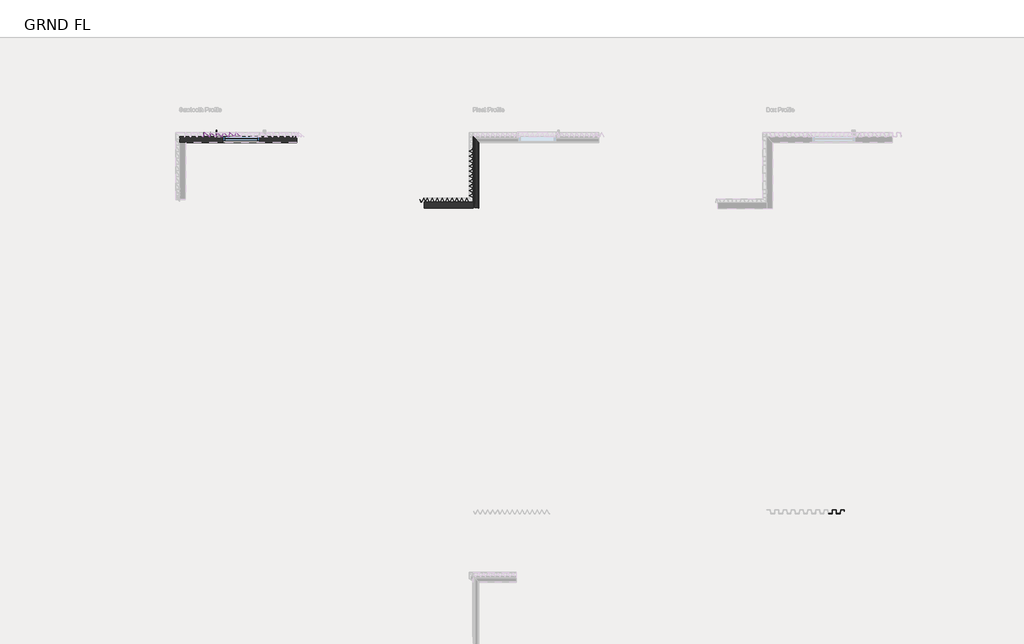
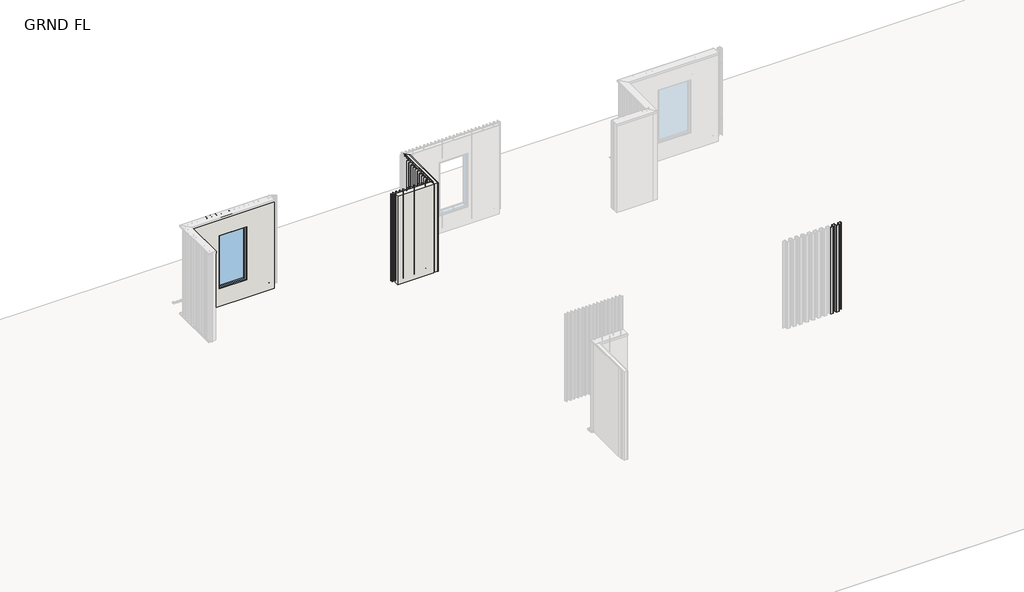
# One storey, part 2 of 13: 36 members, 3 walls, 1 plate, 1 window.
"""IFC4 building model written with IfcOpenShell, lengths in millimetres."""

from ifc_helpers import new_model, si_unit, frame, origin, place, context, project, spatial, polyline, circle_curve, ellipse_curve, outline, extrude, faceted_brep, transform, mapped, element, save
from ifc_brep_helpers import plane_surface, cylinder_surface, revolved_surface, advanced_brep
from components import rectangular_mullion_400fe68b, rectangular_mullion_c7de9142, rectangular_mullion_e289bfa8, rectangular_mullion_6f976a3b, rectangular_mullion_30baffb3, rectangular_mullion_a97d78b0, rectangular_mullion_585a1eef, rectangular_mullion_b048368e, rectangular_mullion_84c57f47, rectangular_mullion_f458c6f7, rectangular_mullion_6e79b691, empty_system_panel_empty_ec333ed9, window_e0563cc2

model = new_model("IFC4")

# Units and contexts
model_context = context("Model", 3, world=origin())
ifc_project = project(units=[si_unit("LENGTHUNIT", "METRE", prefix="MILLI")], contexts=[model_context])

# Site, building, storey
site = spatial("IfcSite", under=ifc_project)
building = spatial("IfcBuilding", under=site)
storey = spatial("IfcBuildingStorey", under=building, Name="GRND FL", Elevation=35277.5920148)

# Members
placement = place(None, origin())
rectangular_mullion_shape = rectangular_mullion_400fe68b(model_context)
element("IfcMember", 1, ObjectType="Rectangular Mullion : CD_NINELINE_Pleat Start Intermediate", at=placement, inside=storey, context=model_context, shape_type="MappedRepresentation", body=[
    mapped(rectangular_mullion_shape, transform((54493.6836337, -4027.6348276, 35330.5920148), x_axis=(0.0, -1.0, 0.0), y_axis=(-1.0, 0.0, 0.0), z_axis=(0.0, 0.0, -1.0))),
])
element("IfcMember", 2, ObjectType="Rectangular Mullion : CD_NINELINE_Pleat Start Intermediate", at=placement, inside=storey, context=model_context, shape_type="MappedRepresentation", body=[
    mapped(rectangular_mullion_shape, transform((54493.6836337, -4145.6348276, 35330.5920148), x_axis=(0.0, -1.0, 0.0), y_axis=(-1.0, 0.0, 0.0), z_axis=(0.0, 0.0, -1.0))),
])
element("IfcMember", 3, ObjectType="Rectangular Mullion : CD_NINELINE_Pleat Start Intermediate", at=placement, inside=storey, context=model_context, shape_type="MappedRepresentation", body=[
    mapped(rectangular_mullion_shape, transform((54493.6836337, -4263.6348276, 35330.5920148), x_axis=(0.0, -1.0, 0.0), y_axis=(-1.0, 0.0, 0.0), z_axis=(0.0, 0.0, -1.0))),
])
element("IfcMember", 4, ObjectType="Rectangular Mullion : CD_NINELINE_Pleat Start Intermediate", at=placement, inside=storey, context=model_context, shape_type="MappedRepresentation", body=[
    mapped(rectangular_mullion_shape, transform((54493.6836337, -4381.6348276, 35330.5920148), x_axis=(0.0, -1.0, 0.0), y_axis=(-1.0, 0.0, 0.0), z_axis=(0.0, 0.0, -1.0))),
])
element("IfcMember", 5, ObjectType="Rectangular Mullion : CD_NINELINE_Pleat Start Intermediate", at=placement, inside=storey, context=model_context, shape_type="MappedRepresentation", body=[
    mapped(rectangular_mullion_shape, transform((54493.6836337, -4499.6348276, 35330.5920148), x_axis=(0.0, -1.0, 0.0), y_axis=(-1.0, 0.0, 0.0), z_axis=(0.0, 0.0, -1.0))),
])
element("IfcMember", 6, ObjectType="Rectangular Mullion : CD_NINELINE_Pleat Start Intermediate", at=placement, inside=storey, context=model_context, shape_type="MappedRepresentation", body=[
    mapped(rectangular_mullion_shape, transform((54493.6836337, -4617.6348276, 35330.5920148), x_axis=(0.0, -1.0, 0.0), y_axis=(-1.0, 0.0, 0.0), z_axis=(0.0, 0.0, -1.0))),
])
element("IfcMember", 7, ObjectType="Rectangular Mullion : CD_NINELINE_Pleat Start Intermediate", at=placement, inside=storey, context=model_context, shape_type="MappedRepresentation", body=[
    mapped(rectangular_mullion_shape, transform((54493.6836337, -4735.6348276, 35330.5920148), x_axis=(0.0, -1.0, 0.0), y_axis=(-1.0, 0.0, 0.0), z_axis=(0.0, 0.0, -1.0))),
])
element("IfcMember", 8, ObjectType="Rectangular Mullion : CD_NINELINE_Pleat Start Intermediate", at=placement, inside=storey, context=model_context, shape_type="MappedRepresentation", body=[
    mapped(rectangular_mullion_shape, transform((54493.6836337, -4853.6348276, 35330.5920148), x_axis=(0.0, -1.0, 0.0), y_axis=(-1.0, 0.0, 0.0), z_axis=(0.0, 0.0, -1.0))),
])
element("IfcMember", 9, ObjectType="Rectangular Mullion : CD_NINELINE_Pleat Start Intermediate", at=placement, inside=storey, context=model_context, shape_type="MappedRepresentation", body=[
    mapped(rectangular_mullion_shape, transform((54493.6836337, -4971.6348276, 35330.5920148), x_axis=(0.0, -1.0, 0.0), y_axis=(-1.0, 0.0, 0.0), z_axis=(0.0, 0.0, -1.0))),
])
element("IfcMember", 10, ObjectType="Rectangular Mullion : CD_NINELINE_Pleat Start Intermediate", at=placement, inside=storey, context=model_context, shape_type="MappedRepresentation", body=[
    mapped(rectangular_mullion_shape, transform((54493.6836337, -5089.6348276, 35330.5920148), x_axis=(0.0, -1.0, 0.0), y_axis=(-1.0, 0.0, 0.0), z_axis=(0.0, 0.0, -1.0))),
])
rectangular_mullion_2_shape = rectangular_mullion_c7de9142(model_context)
element("IfcMember", 11, ObjectType="Rectangular Mullion : CD_NINELINE_Sawtooth Start Intermediate", at=placement, inside=storey, context=model_context, shape_type="MappedRepresentation", body=[
    mapped(rectangular_mullion_2_shape, transform((48133.9599021, -3745.6146039, 35877.5920148), x_axis=(-1.0, 0.0, 0.0), y_axis=(0.0, 1.0, 0.0), z_axis=(0.0, 0.0, -1.0))),
])
rectangular_mullion_3_shape = rectangular_mullion_e289bfa8(model_context)
element("IfcMember", 12, ObjectType="Rectangular Mullion : CD_NINELINE_Sawtooth Intermediate w Pan", at=placement, inside=storey, context=model_context, shape_type="MappedRepresentation", body=[
    mapped(rectangular_mullion_3_shape, transform((48283.9599021, -3745.6146039, 35877.5920148), x_axis=(-1.0, 0.0, 0.0), y_axis=(0.0, 1.0, 0.0), z_axis=(0.0, 0.0, -1.0))),
])
rectangular_mullion_4_shape = rectangular_mullion_6f976a3b(model_context)
element("IfcMember", 13, ObjectType="Rectangular Mullion : CD_NINELINE_Sawtooth Start Intermediate", at=placement, inside=storey, context=model_context, shape_type="MappedRepresentation", body=[
    mapped(rectangular_mullion_4_shape, transform((48883.9599021, -3745.6146039, 35330.5920148), x_axis=(-1.0, 0.0, 0.0), y_axis=(0.0, 1.0, 0.0), z_axis=(0.0, 0.0, -1.0))),
])
element("IfcMember", 14, ObjectType="Rectangular Mullion : CD_NINELINE_Sawtooth Start Intermediate", at=placement, inside=storey, context=model_context, shape_type="MappedRepresentation", body=[
    mapped(rectangular_mullion_4_shape, transform((48733.9599021, -3745.6146039, 35330.5920148), x_axis=(-1.0, 0.0, 0.0), y_axis=(0.0, 1.0, 0.0), z_axis=(0.0, 0.0, -1.0))),
])
element("IfcMember", 15, ObjectType="Rectangular Mullion : CD_NINELINE_Sawtooth Start Intermediate", at=placement, inside=storey, context=model_context, shape_type="MappedRepresentation", body=[
    mapped(rectangular_mullion_4_shape, transform((48583.9599021, -3745.6146039, 35330.5920148), x_axis=(-1.0, 0.0, 0.0), y_axis=(0.0, 1.0, 0.0), z_axis=(0.0, 0.0, -1.0))),
])
element("IfcMember", 16, ObjectType="Rectangular Mullion : CD_NINELINE_Sawtooth Start Intermediate", at=placement, inside=storey, context=model_context, shape_type="MappedRepresentation", body=[
    mapped(rectangular_mullion_4_shape, transform((48283.9599021, -3745.6146039, 35330.5920148), x_axis=(-1.0, 0.0, 0.0), y_axis=(0.0, 1.0, 0.0), z_axis=(0.0, 0.0, -1.0))),
])
rectangular_mullion_5_shape = rectangular_mullion_30baffb3(model_context)
element("IfcMember", 17, ObjectType="Rectangular Mullion : CD_NINELINE_Sawtooth Intermediate w Pan", at=placement, inside=storey, context=model_context, shape_type="MappedRepresentation", body=[
    mapped(rectangular_mullion_5_shape, transform((48433.9599021, -3745.6146039, 35330.5920148), x_axis=(-1.0, 0.0, 0.0), y_axis=(0.0, 1.0, 0.0), z_axis=(0.0, 0.0, -1.0))),
])
element("IfcMember", 18, ObjectType="Rectangular Mullion : CD_NINELINE_Sawtooth Start Intermediate", at=placement, inside=storey, context=model_context, shape_type="MappedRepresentation", body=[
    mapped(rectangular_mullion_4_shape, transform((48133.9599021, -3745.6146039, 35330.5920148), x_axis=(-1.0, 0.0, 0.0), y_axis=(0.0, 1.0, 0.0), z_axis=(0.0, 0.0, -1.0))),
])
rectangular_mullion_6_shape = rectangular_mullion_a97d78b0(model_context)
element("IfcMember", 19, ObjectType="Rectangular Mullion : CD_NINELINE_Sawtooth Start Intermediate", at=placement, inside=storey, context=model_context, shape_type="MappedRepresentation", body=[
    mapped(rectangular_mullion_6_shape, transform((48133.9599021, -3745.6146039, 37729.5920148), x_axis=(-1.0, 0.0, 0.0), y_axis=(0.0, 1.0, 0.0), z_axis=(0.0, 0.0, -1.0))),
])
element("IfcMember", 20, ObjectType="Rectangular Mullion : CD_NINELINE_Sawtooth Start Intermediate", at=placement, inside=storey, context=model_context, shape_type="MappedRepresentation", body=[
    mapped(rectangular_mullion_6_shape, transform((48283.9599021, -3745.6146039, 37729.5920148), x_axis=(-1.0, 0.0, 0.0), y_axis=(0.0, 1.0, 0.0), z_axis=(0.0, 0.0, -1.0))),
])
element("IfcMember", 21, ObjectType="Rectangular Mullion : CD_NINELINE_Sawtooth Start Intermediate", at=placement, inside=storey, context=model_context, shape_type="MappedRepresentation", body=[
    mapped(rectangular_mullion_6_shape, transform((48883.9599021, -3745.6146039, 37729.5920148), x_axis=(-1.0, 0.0, 0.0), y_axis=(0.0, 1.0, 0.0), z_axis=(0.0, 0.0, -1.0))),
])
element("IfcMember", 22, ObjectType="Rectangular Mullion : CD_NINELINE_Sawtooth Start Intermediate", at=placement, inside=storey, context=model_context, shape_type="MappedRepresentation", body=[
    mapped(rectangular_mullion_6_shape, transform((48733.9599021, -3745.6146039, 37729.5920148), x_axis=(-1.0, 0.0, 0.0), y_axis=(0.0, 1.0, 0.0), z_axis=(0.0, 0.0, -1.0))),
])
element("IfcMember", 23, ObjectType="Rectangular Mullion : CD_NINELINE_Sawtooth Start Intermediate", at=placement, inside=storey, context=model_context, shape_type="MappedRepresentation", body=[
    mapped(rectangular_mullion_6_shape, transform((48583.9599021, -3745.6146039, 37729.5920148), x_axis=(-1.0, 0.0, 0.0), y_axis=(0.0, 1.0, 0.0), z_axis=(0.0, 0.0, -1.0))),
])
element("IfcMember", 24, ObjectType="Rectangular Mullion : CD_NINELINE_Sawtooth Start Intermediate", at=placement, inside=storey, context=model_context, shape_type="MappedRepresentation", body=[
    mapped(rectangular_mullion_6_shape, transform((48433.9599021, -3745.6146039, 37729.5920148), x_axis=(-1.0, 0.0, 0.0), y_axis=(0.0, 1.0, 0.0), z_axis=(0.0, 0.0, -1.0))),
])
rectangular_mullion_7_shape = rectangular_mullion_585a1eef(model_context)
element("IfcMember", 25, ObjectType="Rectangular Mullion : CD_NINELINE_Pleat Start Intermediate", at=placement, inside=storey, context=model_context, shape_type="MappedRepresentation", body=[
    mapped(rectangular_mullion_7_shape, transform((53569.7112724, -5304.8431195, 35330.5920148), x_axis=(1.0, 0.0, 0.0), y_axis=(0.0, -1.0, 0.0), z_axis=(0.0, 0.0, -1.0))),
])
element("IfcMember", 26, ObjectType="Rectangular Mullion : CD_NINELINE_Pleat Start Intermediate", at=placement, inside=storey, context=model_context, shape_type="MappedRepresentation", body=[
    mapped(rectangular_mullion_7_shape, transform((53687.7112724, -5304.8431195, 35330.5920148), x_axis=(1.0, 0.0, 0.0), y_axis=(0.0, -1.0, 0.0), z_axis=(0.0, 0.0, -1.0))),
])
element("IfcMember", 27, ObjectType="Rectangular Mullion : CD_NINELINE_Pleat Start Intermediate", at=placement, inside=storey, context=model_context, shape_type="MappedRepresentation", body=[
    mapped(rectangular_mullion_7_shape, transform((53805.7112724, -5304.8431195, 35330.5920148), x_axis=(1.0, 0.0, 0.0), y_axis=(0.0, -1.0, 0.0), z_axis=(0.0, 0.0, -1.0))),
])
element("IfcMember", 28, ObjectType="Rectangular Mullion : CD_NINELINE_Pleat Start Intermediate", at=placement, inside=storey, context=model_context, shape_type="MappedRepresentation", body=[
    mapped(rectangular_mullion_7_shape, transform((53923.7112724, -5304.8431195, 35330.5920148), x_axis=(1.0, 0.0, 0.0), y_axis=(0.0, -1.0, 0.0), z_axis=(0.0, 0.0, -1.0))),
])
element("IfcMember", 29, ObjectType="Rectangular Mullion : CD_NINELINE_Pleat Start Intermediate", at=placement, inside=storey, context=model_context, shape_type="MappedRepresentation", body=[
    mapped(rectangular_mullion_7_shape, transform((54041.7112724, -5304.8431195, 35330.5920148), x_axis=(1.0, 0.0, 0.0), y_axis=(0.0, -1.0, 0.0), z_axis=(0.0, 0.0, -1.0))),
])
element("IfcMember", 30, ObjectType="Rectangular Mullion : CD_NINELINE_Pleat Start Intermediate", at=placement, inside=storey, context=model_context, shape_type="MappedRepresentation", body=[
    mapped(rectangular_mullion_7_shape, transform((54159.7112724, -5304.8431195, 35330.5920148), x_axis=(1.0, 0.0, 0.0), y_axis=(0.0, -1.0, 0.0), z_axis=(0.0, 0.0, -1.0))),
])
element("IfcMember", 31, ObjectType="Rectangular Mullion : CD_NINELINE_Pleat Start Intermediate", at=placement, inside=storey, context=model_context, shape_type="MappedRepresentation", body=[
    mapped(rectangular_mullion_7_shape, transform((53451.7112724, -5304.8431195, 35330.5920148), x_axis=(1.0, 0.0, 0.0), y_axis=(0.0, -1.0, 0.0), z_axis=(0.0, 0.0, -1.0))),
])
element("IfcMember", 32, ObjectType="Rectangular Mullion : CD_NINELINE_Pleat Start Intermediate", at=placement, inside=storey, context=model_context, shape_type="MappedRepresentation", body=[
    mapped(rectangular_mullion_7_shape, transform((53333.7112724, -5304.8431195, 35330.5920148), x_axis=(1.0, 0.0, 0.0), y_axis=(0.0, -1.0, 0.0), z_axis=(0.0, 0.0, -1.0))),
])
rectangular_mullion_8_shape = rectangular_mullion_b048368e(model_context)
element("IfcMember", 33, ObjectType="Rectangular Mullion : CD_NINELINE_Pleat Start", at=placement, inside=storey, context=model_context, shape_type="MappedRepresentation", body=[
    mapped(rectangular_mullion_8_shape, transform((53223.227579, -5304.8431195, 38277.5920148), x_axis=(-1.0, 0.0, 0.0), y_axis=(0.0, -1.0, 0.0), z_axis=(0.0, 0.0, 1.0))),
])
rectangular_mullion_9_shape = rectangular_mullion_84c57f47(model_context)
element("IfcMember", 34, ObjectType="Rectangular Mullion : CD_NINELINE_Pleat End", at=placement, inside=storey, context=model_context, shape_type="MappedRepresentation", body=[
    mapped(rectangular_mullion_9_shape, transform((54277.7112724, -5304.8431195, 35330.5920148), x_axis=(1.0, 0.0, 0.0), y_axis=(0.0, -1.0, 0.0), z_axis=(0.0, 0.0, -1.0))),
])
rectangular_mullion_10_shape = rectangular_mullion_f458c6f7(model_context)
element("IfcMember", 35, ObjectType="Rectangular Mullion : CD_NINELINE_Box Intermediate", at=placement, inside=storey, context=model_context, shape_type="MappedRepresentation", body=[
    mapped(rectangular_mullion_10_shape, transform((62968.105605, -12745.6146039, 35330.5920148), x_axis=(1.0, 0.0, 0.0), y_axis=(0.0, -1.0, 0.0), z_axis=(0.0, 0.0, -1.0))),
])
rectangular_mullion_11_shape = rectangular_mullion_6e79b691(model_context)
element("IfcMember", 36, ObjectType="Rectangular Mullion : CD_NINELINE_Box End", at=placement, inside=storey, context=model_context, shape_type="MappedRepresentation", body=[
    mapped(rectangular_mullion_11_shape, transform((63353.1836337, -12745.6146039, 35330.5920148), x_axis=(1.0, 0.0, 0.0), y_axis=(0.0, -1.0, 0.0), z_axis=(0.0, 0.0, -1.0))),
])

# Plate
empty_system_panel_empty_shape = empty_system_panel_empty_ec333ed9(model_context)
element("IfcPlate", 37, ObjectType="Empty System Panel : Empty", at=placement, inside=storey, context=model_context, shape_type="MappedRepresentation", body=[
    mapped(empty_system_panel_empty_shape, transform((48375.6382426, -3745.6146039, 35877.5920148), x_axis=(-1.0, 0.0, 0.0), y_axis=(0.0, -1.0, 0.0), z_axis=(0.0, 0.0, 1.0))),
])

# Walls
element("IfcWall", 38, ObjectType="EXT METAL SF- Top Hat 35, Steel Frame 90, Plasterboard 13", at=placement, inside=storey, context=model_context, shape_type="AdvancedBrep", body=[
    advanced_brep(
    [(47493.6836337, -3887.6146039, 35277.5920148), (47635.6836337, -3887.6146039, 35277.5920148), (50283.683634, -3887.6146039, 35277.5920148), (50283.683634, -3887.6146039, 38277.5920148), (47635.6836337, -3887.6146039, 38277.5082912), (47630.8871105, -3887.6146039, 38277.5920148), (47493.6836337, -3887.6146039, 38277.5920148), (47493.6836337, -3887.6146039, 35407.5920148), (47494.6836337, -3887.6146039, 35407.5920148), (47494.6836337, -3887.6146039, 35328.1986423), (47493.6836337, -3887.6146039, 35328.1811873), (49404.3086337, -3887.6146039, 37677.5920148), (49404.3086337, -3887.6146039, 35877.5920148), (48519.3086337, -3887.6146039, 35877.5920148), (48519.3086337, -3887.6146039, 37677.5920148), (50283.683634, -3745.6146039, 35277.5920148), (47493.6836337, -3745.6146039, 35277.5920148), (47493.6836337, -3745.6146039, 35328.1811873), (50283.683634, -3745.6146039, 35328.1811873), (47493.6836337, -3745.6146039, 38277.5920148), (50283.683634, -3745.6146039, 38277.5920148), (50283.683634, -3745.6146039, 35407.5920148), (47493.6836337, -3745.6146039, 35407.5920148), (49401.8711337, -3745.6146039, 35877.5920148), (49404.3086337, -3745.6146039, 35877.5920148), (49404.3086337, -3745.6146039, 35879.395077), (49557.8491977, -3745.6146039, 35879.395077), (49701.002942, -3745.6146039, 35878.5920529), (49704.0872375, -3745.6146039, 35876.592129), (49704.0872375, -3745.6146039, 35845.9418703), (49700.9641937, -3745.6146039, 35862.2912699), (49699.420066, -3745.6146039, 35862.1694005), (49705.6429613, -3745.6146039, 35829.5920148), (49705.6429613, -3745.6146039, 35876.592129), (49701.016518, -3745.6146039, 35879.5920148), (49557.8491977, -3745.6146039, 35880.3951151), (49404.3086337, -3745.6146039, 35880.3951151), (49404.3086337, -3745.6146039, 37677.5920148), (49570.8795019, -3745.6146039, 37677.5920148), (49575.5466734, -3745.6146039, 37680.5920148), (49575.5466734, -3745.6146039, 37722.5924717), (49570.9609553, -3745.6146039, 37725.5920148), (49429.3086337, -3745.6146039, 37727.1813396), (48445.3086337, -3745.6146039, 37727.1813396), (48354.2562764, -3745.6146039, 37725.5920148), (48351.3086337, -3745.6146039, 37722.5924717), (48351.3086337, -3745.6146039, 37680.5920148), (48354.3086337, -3745.6146039, 37677.5920148), (48519.3086337, -3745.6146039, 37677.5920148), (48519.3086337, -3745.6146039, 35880.3951151), (48463.8491977, -3745.6146039, 35880.3951151), (48371.8230181, -3745.6146039, 35879.5920148), (48368.8491977, -3745.6146039, 35876.592129), (48368.8491977, -3745.6146039, 35829.5920148), (48372.8491977, -3745.6146039, 35862.1694005), (48371.8566516, -3745.6146039, 35862.2912699), (48369.8491977, -3745.6146039, 35845.9418703), (48369.8491977, -3745.6146039, 35876.592129), (48371.8317447, -3745.6146039, 35878.5920529), (48463.8491977, -3745.6146039, 35879.395077), (48519.3086337, -3745.6146039, 35879.395077), (48519.3086337, -3745.6146039, 35877.5920148), (48522.2513341, -3745.6146039, 35877.5920148), (48523.2513341, -3745.6146039, 35877.5920148), (49400.8711337, -3745.6146039, 35877.5920148), (48445.3086337, -3745.6146039, 37726.1811873), (49429.3086337, -3745.6146039, 37726.1811873), (49570.9338041, -3745.6146039, 37724.5921671), (49573.9909496, -3745.6146039, 37722.5924717), (49573.9909496, -3745.6146039, 37680.5920148), (49570.8795019, -3745.6146039, 37678.5920148), (48354.3086337, -3745.6146039, 37678.5920148), (48352.3086337, -3745.6146039, 37680.5920148), (48352.3086337, -3745.6146039, 37722.5924717), (48354.2737288, -3745.6146039, 37724.5921671), (50283.683634, -3746.6146039, 35328.1986423), (50283.683634, -3746.6146039, 35407.5920148), (50283.683634, -3882.8180808, 38277.5920148), (49404.3086337, -3764.6146039, 37677.5920148), (49404.3086337, -3759.6146039, 35880.5172912), (49404.3086337, -3759.6146039, 35886.5920148), (49404.3086337, -3760.6146039, 35886.5920148), (49404.3086337, -3760.6146039, 35879.52598), (48519.3086337, -3764.6146039, 37677.5920148), (48519.3086337, -3760.6146039, 35879.52598), (48519.3086337, -3760.6146039, 35886.5920148), (48519.3086337, -3759.6146039, 35886.5920148), (48519.3086337, -3759.6146039, 35880.5172912), (47494.6836337, -3746.6146039, 35328.1986423), (47494.6836337, -3746.6146039, 35407.5920148), (48464.3086337, -3764.6146039, 37677.5920148), (48464.3086337, -3764.6146039, 37687.5920148), (49422.3931992, -3764.6146039, 37687.5920148), (49422.3931992, -3764.6146039, 37677.5920148), (48463.3086337, -3763.6146039, 37687.5920148), (48463.3086337, -3763.6146039, 37678.5920148), (49422.7571694, -3763.6146039, 37678.5920148), (49422.7571694, -3763.6146039, 37687.5920148), (48450.3086337, -3750.6146039, 37726.2684626), (49427.4887825, -3750.6146039, 37726.2684626), (48450.3086337, -3750.6146039, 37825.5920148), (49427.4887825, -3750.6146039, 37825.5920148), (48449.3086337, -3749.6146039, 37825.5920148), (48449.3086337, -3749.6146039, 37727.2511599), (49427.8527527, -3749.6146039, 37727.2511599), (49427.8527527, -3749.6146039, 37825.5920148), (49593.76723, -3764.8196882, 37677.5920148), (49422.6376091, -3764.8196882, 37677.5920148), (49422.6376091, -3764.8196882, 37687.5920148), (49424.1933329, -3764.8196882, 37687.5920148), (49424.1933329, -3764.8196882, 37678.5920148), (49593.76723, -3764.8196882, 37678.5920148), (49596.8786777, -3764.8196882, 37680.5920148), (49596.8786777, -3764.8196882, 37722.5924717), (49593.8215323, -3764.8196882, 37724.5921671), (49444.4177427, -3764.8196882, 37726.2684626), (49444.4177427, -3764.8196882, 37825.5920148), (49445.9734665, -3764.8196882, 37825.5920148), (49445.9734665, -3764.8196882, 37727.2511599), (49593.8486834, -3764.8196882, 37725.5920148), (49598.4344015, -3764.8196882, 37722.5924717), (49598.4344015, -3764.8196882, 37680.5920148), (48351.3086337, -3764.9336584, 37680.5920148), (48351.3086337, -3764.9336584, 37722.5924717), (48354.2562764, -3764.9336584, 37725.5920148), (48449.3086337, -3764.9336584, 37727.2511599), (48449.3086337, -3764.9336584, 37825.5920148), (48450.3086337, -3764.9336584, 37825.5920148), (48450.3086337, -3764.9336584, 37726.2684626), (48354.2737288, -3764.9336584, 37724.5921671), (48352.3086337, -3764.9336584, 37722.5924717), (48352.3086337, -3764.9336584, 37680.5920148), (48354.3086337, -3764.9336584, 37678.5920148), (48463.3086337, -3764.9336584, 37678.5920148), (48463.3086337, -3764.9336584, 37687.5920148), (48464.3086337, -3764.9336584, 37687.5920148), (48464.3086337, -3764.9336584, 37677.5920148), (48354.3086337, -3764.9336584, 37677.5920148), (48478.8491977, -3760.6146039, 35879.52598), (49552.3896442, -3760.6146039, 35879.52598), (48478.8491977, -3760.6146039, 35886.5920148), (49552.3896442, -3760.6146039, 35886.5920148), (48477.8491977, -3759.6146039, 35886.5920148), (48477.8491977, -3759.6146039, 35880.5172912), (49552.7536145, -3759.6146039, 35880.5172912), (49552.7536145, -3759.6146039, 35886.5920148), (48368.8491977, -3760.9336584, 35829.5920148), (48368.8491977, -3760.9336584, 35876.592129), (48371.8230181, -3760.9336584, 35879.5920148), (48477.8491977, -3760.9336584, 35880.5172912), (48477.8491977, -3760.9336584, 35886.5920148), (48478.8491977, -3760.9336584, 35886.5920148), (48478.8491977, -3760.9336584, 35879.52598), (48371.8317447, -3760.9336584, 35878.5920529), (48369.8491977, -3760.9336584, 35876.592129), (48369.8491977, -3760.9336584, 35845.9418703), (48371.8566516, -3760.9336584, 35862.2912699), (48372.8491977, -3760.9336584, 35862.1694005), (49552.6340541, -3760.8196882, 35886.5920148), (49554.1897779, -3760.8196882, 35886.5920148), (49554.1897779, -3760.8196882, 35880.5172912), (49719.1372318, -3760.8196882, 35879.5920148), (49723.7636751, -3760.8196882, 35876.592129), (49723.7636751, -3760.8196882, 35829.5920148), (49717.5407798, -3760.8196882, 35862.1694005), (49719.0849075, -3760.8196882, 35862.2912699), (49722.2079512, -3760.8196882, 35845.9418703), (49722.2079512, -3760.8196882, 35876.592129), (49719.1236557, -3760.8196882, 35878.5920529), (49552.6340541, -3760.8196882, 35879.52598)],
    [
        (0, 1),
        (1, 2),
        (2, 3),
        (3, 4),
        (4, 5),
        (5, 6),
        (6, 7),
        (7, 8),
        (8, 9),
        (9, 10),
        (10, 0),
        (11, 12),
        (12, 13),
        (13, 14),
        (14, 11),
        (15, 16),
        (16, 17),
        (17, 18),
        (18, 15),
        (19, 20),
        (20, 21),
        (21, 22),
        (22, 19),
        (23, 24),
        (24, 25),
        (25, 26),
        (26, 27),
        (27, 28, ellipse_curve(frame((49700.9757898, -3745.6146039, 35876.592129), z_axis=(0.0, 1.0, 0.0), x_axis=(1.0, 0.0, 0.0)), 3.1114477, 2.0)),
        (28, 29),
        (29, 30),
        (30, 31),
        (31, 32),
        (32, 33),
        (33, 34, ellipse_curve(frame((49700.9757898, -3745.6146039, 35876.592129), z_axis=(0.0, -1.0, 0.0), x_axis=(-1.0, 0.0, 0.0)), 4.6671715, 3.0)),
        (34, 35),
        (35, 36),
        (36, 37),
        (37, 38),
        (38, 39, ellipse_curve(frame((49570.8795019, -3745.6146039, 37680.5920148), z_axis=(0.0, -1.0, 0.0), x_axis=(-0.9999999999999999, 0.0, 0.0)), 4.6671715, 3.0)),
        (39, 40),
        (40, 41, ellipse_curve(frame((49570.8795019, -3745.6146039, 37722.5924717), z_axis=(0.0, -1.0, 0.0), x_axis=(-0.9999999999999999, 0.0, 0.0)), 4.6671715, 3.0)),
        (41, 42),
        (42, 43),
        (43, 44),
        (44, 45, circle_curve(frame((48354.3086337, -3745.6146039, 37722.5924717), z_axis=(0.0, -1.0, 0.0), x_axis=(-1.0, 0.0, 0.0)), 3.0)),
        (45, 46),
        (46, 47, circle_curve(frame((48354.3086337, -3745.6146039, 37680.5920148), z_axis=(0.0, -1.0, 0.0), x_axis=(-1.0, 0.0, 0.0)), 3.0)),
        (47, 48),
        (48, 49),
        (49, 50),
        (50, 51),
        (51, 52, circle_curve(frame((48371.8491977, -3745.6146039, 35876.592129), z_axis=(0.0, -1.0, 0.0), x_axis=(-1.0, 0.0, 0.0)), 3.0)),
        (52, 53),
        (53, 54),
        (54, 55),
        (55, 56),
        (56, 57),
        (57, 58, circle_curve(frame((48371.8491977, -3745.6146039, 35876.592129), z_axis=(0.0, 1.0, 0.0), x_axis=(-1.0, 0.0, 0.0)), 2.0)),
        (58, 59),
        (59, 60),
        (60, 61),
        (61, 62),
        (62, 63),
        (63, 64),
        (64, 23),
        (65, 66),
        (66, 67),
        (67, 68, ellipse_curve(frame((49570.8795019, -3745.6146039, 37722.5924717), z_axis=(0.0, 1.0, 0.0), x_axis=(0.9999999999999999, 0.0, 0.0)), 3.1114477, 2.0)),
        (68, 69),
        (69, 70, ellipse_curve(frame((49570.8795019, -3745.6146039, 37680.5920148), z_axis=(0.0, 1.0, 0.0), x_axis=(0.9999999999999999, 0.0, 0.0)), 3.1114477, 2.0)),
        (70, 71),
        (71, 72, circle_curve(frame((48354.3086337, -3745.6146039, 37680.5920148), z_axis=(0.0, 1.0, 0.0), x_axis=(-1.0, 0.0, 0.0)), 2.0)),
        (72, 73),
        (73, 74, circle_curve(frame((48354.3086337, -3745.6146039, 37722.5924717), z_axis=(0.0, 1.0, 0.0), x_axis=(-1.0, 0.0, 0.0)), 2.0)),
        (74, 65),
        (0, 16),
        (15, 2),
        (18, 75),
        (75, 76),
        (76, 21),
        (20, 77),
        (77, 3),
        (19, 6),
        (24, 12),
        (11, 78),
        (78, 37),
        (36, 79),
        (79, 80),
        (80, 81),
        (81, 82),
        (82, 25),
        (14, 83),
        (83, 78),
        (13, 61),
        (60, 84),
        (84, 85),
        (85, 86),
        (86, 87),
        (87, 49),
        (48, 83),
        (22, 7),
        (10, 17),
        (9, 88),
        (88, 17),
        (89, 88),
        (8, 89),
        (76, 89),
        (88, 75),
        (90, 91),
        (91, 92),
        (92, 93),
        (93, 78),
        (83, 90),
        (94, 95),
        (95, 96),
        (96, 97),
        (97, 94),
        (98, 99),
        (99, 66),
        (65, 98),
        (98, 100),
        (100, 101),
        (101, 99),
        (102, 103),
        (103, 104),
        (104, 105),
        (105, 102),
        (103, 43),
        (42, 104),
        (106, 107),
        (107, 108),
        (108, 109),
        (109, 110),
        (110, 111),
        (111, 112, ellipse_curve(frame((49593.76723, -3764.8196882, 37680.5920148), z_axis=(0.0, -1.0, 0.0), x_axis=(0.9999999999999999, 0.0, 0.0)), 3.1114477, 2.0)),
        (112, 113),
        (113, 114, ellipse_curve(frame((49593.76723, -3764.8196882, 37722.5924717), z_axis=(0.0, -1.0, 0.0), x_axis=(0.9999999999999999, 0.0, 0.0)), 3.1114477, 2.0)),
        (114, 115),
        (115, 116),
        (116, 117),
        (117, 118),
        (118, 119),
        (119, 120, ellipse_curve(frame((49593.76723, -3764.8196882, 37722.5924717), z_axis=(0.0, 1.0, 0.0), x_axis=(-0.9999999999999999, 0.0, 0.0)), 4.6671715, 3.0)),
        (120, 121),
        (121, 106, ellipse_curve(frame((49593.76723, -3764.8196882, 37680.5920148), z_axis=(0.0, 1.0, 0.0), x_axis=(-0.9999999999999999, 0.0, 0.0)), 4.6671715, 3.0)),
        (120, 40),
        (39, 121),
        (38, 106),
        (107, 93),
        (92, 108),
        (109, 97),
        (96, 110),
        (111, 70),
        (69, 112),
        (68, 113),
        (67, 114),
        (99, 115),
        (101, 116),
        (117, 105),
        (104, 118),
        (41, 119),
        (122, 123),
        (123, 124, circle_curve(frame((48354.3086337, -3764.9336584, 37722.5924717), z_axis=(0.0, 1.0, 0.0), x_axis=(-1.0, 0.0, 0.0)), 3.0)),
        (124, 125),
        (125, 126),
        (126, 127),
        (127, 128),
        (128, 129),
        (129, 130, circle_curve(frame((48354.3086337, -3764.9336584, 37722.5924717), z_axis=(0.0, -1.0, 0.0), x_axis=(-1.0, 0.0, 0.0)), 2.0)),
        (130, 131),
        (131, 132, circle_curve(frame((48354.3086337, -3764.9336584, 37680.5920148), z_axis=(0.0, -1.0, 0.0), x_axis=(-1.0, 0.0, 0.0)), 2.0)),
        (132, 133),
        (133, 134),
        (134, 135),
        (135, 136),
        (136, 137),
        (137, 122, circle_curve(frame((48354.3086337, -3764.9336584, 37680.5920148), z_axis=(0.0, 1.0, 0.0), x_axis=(-1.0, 0.0, 0.0)), 3.0)),
        (122, 46),
        (45, 123),
        (137, 47),
        (136, 90),
        (135, 91),
        (134, 94),
        (133, 95),
        (132, 71),
        (131, 72),
        (130, 73),
        (129, 74),
        (128, 98),
        (127, 100),
        (126, 102),
        (125, 103),
        (124, 44),
        (138, 84),
        (59, 138),
        (139, 26),
        (82, 139),
        (138, 140),
        (140, 85),
        (141, 139),
        (81, 141),
        (142, 143),
        (143, 87),
        (86, 142),
        (144, 145),
        (145, 80),
        (79, 144),
        (143, 50),
        (35, 144),
        (146, 147),
        (147, 148, circle_curve(frame((48371.8491977, -3760.9336584, 35876.592129), z_axis=(0.0, 1.0, 0.0), x_axis=(-1.0, 0.0, 0.0)), 3.0)),
        (148, 149),
        (149, 150),
        (150, 151),
        (151, 152),
        (152, 153),
        (153, 154, circle_curve(frame((48371.8491977, -3760.9336584, 35876.592129), z_axis=(0.0, -1.0, 0.0), x_axis=(-1.0, 0.0, 0.0)), 2.0)),
        (154, 155),
        (155, 156),
        (156, 157),
        (157, 146),
        (146, 53),
        (52, 147),
        (157, 54),
        (156, 55),
        (155, 56),
        (154, 57),
        (153, 58),
        (152, 138),
        (151, 140),
        (150, 142),
        (158, 141),
        (145, 159),
        (159, 158),
        (149, 143),
        (148, 51),
        (159, 160),
        (160, 161),
        (161, 162, ellipse_curve(frame((49719.0965036, -3760.8196882, 35876.592129), z_axis=(0.0, 1.0, 0.0), x_axis=(-1.0, 0.0, 0.0)), 4.6671715, 3.0)),
        (162, 163),
        (163, 164),
        (164, 165),
        (165, 166),
        (166, 167),
        (167, 168, ellipse_curve(frame((49719.0965036, -3760.8196882, 35876.592129), z_axis=(0.0, -1.0, 0.0), x_axis=(1.0, 0.0, 0.0)), 3.1114477, 2.0)),
        (168, 169),
        (169, 158),
        (162, 33),
        (32, 163),
        (31, 164),
        (30, 165),
        (29, 166),
        (28, 167),
        (27, 168),
        (139, 169),
        (144, 160),
        (34, 161),
    ],
    [
        plane_surface(frame((47493.6836337, -3887.6146039, 35277.5920148), z_axis=(0.0, -1.0, 0.0), x_axis=(1.0, 0.0, 0.0))),
        plane_surface(frame((47493.6836337, -3745.6146039, 35277.5920148), z_axis=(0.0, 1.0, 0.0), x_axis=(-1.0, 0.0, 0.0))),
        plane_surface(frame((47564.6836337, -3887.6146039, 35277.5920148), z_axis=(0.0, 0.0, -1.0), x_axis=(0.0, 1.0, 0.0))),
        plane_surface(frame((50283.683634, -3887.6146039, 35277.5920148), z_axis=(1.0, 0.0, 0.0), x_axis=(0.0, 1.0, 0.0))),
        plane_surface(frame((50283.683634, -3887.6146039, 38277.5920148), z_axis=(0.0, 0.0, 1.0), x_axis=(0.0, 1.0, 0.0))),
        plane_surface(frame((49404.3086337, -5269.6146039, 35877.5920148), z_axis=(-1.0, 0.0, 0.0), x_axis=(0.0, 1.0, 0.0))),
        plane_surface(frame((49404.3086337, -5269.6146039, 37677.5920148), z_axis=(0.0, 0.0, -1.0), x_axis=(0.0, 1.0, 0.0))),
        plane_surface(frame((48519.3086337, -5269.6146039, 37677.5920148), z_axis=(1.0, 0.0, 0.0), x_axis=(0.0, 1.0, 0.0))),
        plane_surface(frame((48519.3086337, -5269.6146039, 35877.5920148), z_axis=(0.0, 0.0, 1.0), x_axis=(0.0, 1.0, 0.0))),
        plane_surface(frame((47493.6836337, -3745.6146039, 35277.5920148), z_axis=(-1.0, 0.0, 0.0), x_axis=(0.0, -1.0, 0.0))),
        plane_surface(frame((47402.6487288, -5245.6146039, 35326.5921671), z_axis=(-0.017452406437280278, 0.0, 0.9998476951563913), x_axis=(0.0, 1.0, 0.0))),
        plane_surface(frame((47494.6836337, -5245.6146039, 35328.1986423), z_axis=(-1.0, 0.0, 0.0), x_axis=(0.0, 1.0, 0.0))),
        plane_surface(frame((47494.6836337, -5245.6146039, 35407.5920148), z_axis=(0.0, 0.0, -1.0), x_axis=(0.0, 1.0, 0.0))),
        plane_surface(frame((47402.6487288, -3654.5796991, 35326.5921671), z_axis=(0.0, 0.017452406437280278, 0.9998476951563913), x_axis=(1.0, 0.0, 0.0))),
        plane_surface(frame((47494.6836337, -3746.6146039, 35328.1986423), z_axis=(0.0, 1.0, 0.0), x_axis=(1.0, 0.0, 0.0))),
        plane_surface(frame((48464.3086337, -3764.6146039, 37677.5920148), z_axis=(0.0, 1.0, 0.0), x_axis=(1.0, 0.0, 0.0))),
        plane_surface(frame((48463.3086337, -3763.6146039, 37687.5920148), z_axis=(0.0, -1.0, 0.0), x_axis=(1.0, 0.0, 0.0))),
        plane_surface(frame((48354.2737288, -3654.5796991, 37724.5921671), z_axis=(0.0, 0.01745240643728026, 0.9998476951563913), x_axis=(1.0, 0.0, 0.0))),
        plane_surface(frame((48450.3086337, -3750.6146039, 37726.2684626), z_axis=(0.0, 1.0, 0.0), x_axis=(1.0, 0.0, 0.0))),
        plane_surface(frame((48449.3086337, -3749.6146039, 37825.5920148), z_axis=(0.0, -1.0, 0.0), x_axis=(1.0, 0.0, 0.0))),
        plane_surface(frame((48449.3086337, -3749.6146039, 37727.2511599), z_axis=(0.0, -0.017452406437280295, -0.9998476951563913), x_axis=(1.0, 0.0, 0.0))),
        plane_surface(frame((47493.6836337, -3764.8196882, 35277.5920148), z_axis=(0.0, 1.0, 0.0), x_axis=(-1.0, 0.0, 0.0))),
        plane_surface(frame((49463.5218357, -3651.6146039, 37722.5924717), z_axis=(-0.642787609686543, -0.766044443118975, 0.0), x_axis=(0.766044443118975, -0.642787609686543, 0.0))),
        revolved_surface(polyline([(49570.06905603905, -3741.0183372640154, 37680.5920148), (49598.43440151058, -3764.8196881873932, 37680.5920148)]), (49487.8023061, -3675.9045596, 37680.5920148), (-0.7660444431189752, 0.6427876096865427, 0.0)),
        plane_surface(frame((49422.3931992, -3764.6146039, 37677.5920148), z_axis=(0.6427876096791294, 0.7660444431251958, 0.0), x_axis=(0.7660444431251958, -0.6427876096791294, 0.0))),
        plane_surface(frame((49422.7571694, -3763.6146039, 37687.5920148), z_axis=(-0.6427876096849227, -0.7660444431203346, 0.0), x_axis=(0.7660444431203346, -0.6427876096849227, 0.0))),
        cylinder_surface(frame((49487.8023061, -3675.9045596, 37680.5920148), z_axis=(0.7660444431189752, -0.6427876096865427, 0.0), x_axis=(0.6427876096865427, 0.7660444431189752, 0.0)), 2.0),
        plane_surface(frame((49463.1578654, -3652.6146039, 37680.5920148), z_axis=(0.6427876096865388, 0.7660444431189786, 0.0), x_axis=(0.7660444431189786, -0.6427876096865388, 0.0))),
        cylinder_surface(frame((49487.8023061, -3675.9045596, 37722.5924717), z_axis=(0.7660444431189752, -0.6427876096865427, 0.0), x_axis=(0.6427876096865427, 0.7660444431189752, 0.0)), 2.0),
        plane_surface(frame((49462.4426293, -3654.5796991, 37724.5921671), z_axis=(0.011218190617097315, 0.013369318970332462, 0.9998476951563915), x_axis=(0.76604444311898, -0.6427876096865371, 0.0))),
        plane_surface(frame((49427.4887825, -3750.6146039, 37726.2684626), z_axis=(0.6427876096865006, 0.7660444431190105, 0.0), x_axis=(0.7660444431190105, -0.6427876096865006, 0.0))),
        plane_surface(frame((49427.8527527, -3749.6146039, 37825.5920148), z_axis=(-0.6427876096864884, -0.7660444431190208, 0.0), x_axis=(0.7660444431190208, -0.6427876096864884, 0.0))),
        plane_surface(frame((49427.8527527, -3749.6146039, 37727.2511599), z_axis=(-0.011218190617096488, -0.013369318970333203, -0.9998476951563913), x_axis=(0.7660444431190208, -0.6427876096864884, 0.0))),
        revolved_surface(polyline([(49570.06905603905, -3741.0183372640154, 37722.5924717), (49598.43440151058, -3764.8196881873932, 37722.5924717)]), (49487.8023061, -3675.9045596, 37722.5924717), (-0.7660444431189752, 0.6427876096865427, 0.0)),
        plane_surface(frame((47493.6836337, -3764.9336584, 35277.5920148), z_axis=(0.0, 1.0, 0.0), x_axis=(-1.0, 0.0, 0.0))),
        plane_surface(frame((48351.3086337, -3764.9336584, 37722.5924717), z_axis=(1.0, 0.0, 0.0), x_axis=(0.0, 1.0, 0.0))),
        revolved_surface(polyline([(48351.3086337, -3764.9336584, 37680.5920148), (48351.3086337, -3745.6146039, 37680.5920148)]), (48354.3086337, -3764.9336584, 37680.5920148), (0.0, -1.0, 0.0)),
        plane_surface(frame((48354.3086337, -3764.9336584, 37677.5920148), z_axis=(0.0, 0.0, 1.0), x_axis=(0.0, 1.0, 0.0))),
        plane_surface(frame((48464.3086337, -3764.9336584, 37677.5920148), z_axis=(-1.0, 0.0, 0.0), x_axis=(0.0, 1.0, 0.0))),
        plane_surface(frame((48464.3086337, -3764.9336584, 37687.5920148), z_axis=(0.0, 0.0, -1.0), x_axis=(0.0, 1.0, 0.0))),
        plane_surface(frame((48463.3086337, -3764.9336584, 37687.5920148), z_axis=(1.0, 0.0, 0.0), x_axis=(0.0, 1.0, 0.0))),
        plane_surface(frame((48463.3086337, -3764.9336584, 37678.5920148), z_axis=(0.0, 0.0, -1.0), x_axis=(0.0, 1.0, 0.0))),
        cylinder_surface(frame((48354.3086337, -3764.9336584, 37680.5920148), z_axis=(0.0, 1.0, 0.0), x_axis=(-1.0, 0.0, 0.0)), 2.0),
        plane_surface(frame((48352.3086337, -3764.9336584, 37680.5920148), z_axis=(-1.0, 0.0, 0.0), x_axis=(0.0, 1.0, 0.0))),
        cylinder_surface(frame((48354.3086337, -3764.9336584, 37722.5924717), z_axis=(0.0, 1.0, 0.0), x_axis=(-1.0, 0.0, 0.0)), 2.0),
        plane_surface(frame((48354.2737288, -3764.9336584, 37724.5921671), z_axis=(-0.01745240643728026, 0.0, 0.9998476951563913), x_axis=(0.0, 1.0, 0.0))),
        plane_surface(frame((48450.3086337, -3764.9336584, 37726.2684626), z_axis=(-1.0, 0.0, 0.0), x_axis=(0.0, 1.0, 0.0))),
        plane_surface(frame((48450.3086337, -3764.9336584, 37825.5920148), z_axis=(0.0, 0.0, -1.0), x_axis=(0.0, 1.0, 0.0))),
        plane_surface(frame((48449.3086337, -3764.9336584, 37825.5920148), z_axis=(1.0, 0.0, 0.0), x_axis=(0.0, 1.0, 0.0))),
        plane_surface(frame((48449.3086337, -3764.9336584, 37727.2511599), z_axis=(0.017452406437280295, 0.0, -0.9998476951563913), x_axis=(0.0, 1.0, 0.0))),
        revolved_surface(polyline([(48351.3086337, -3764.9336584, 37722.5924717), (48351.3086337, -3745.6146039, 37722.5924717)]), (48354.3086337, -3764.9336584, 37722.5924717), (0.0, -1.0, 0.0)),
        plane_surface(frame((48371.8317447, -3653.5971508, 35878.5920529), z_axis=(0.0, 0.008726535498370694, 0.9999619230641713), x_axis=(1.0, 0.0, 0.0))),
        plane_surface(frame((48478.8491977, -3760.6146039, 35879.52598), z_axis=(0.0, 1.0, 0.0), x_axis=(1.0, 0.0, 0.0))),
        plane_surface(frame((48477.8491977, -3759.6146039, 35886.5920148), z_axis=(0.0, -1.0, 0.0), x_axis=(1.0, 0.0, 0.0))),
        plane_surface(frame((48477.8491977, -3759.6146039, 35880.5172912), z_axis=(0.0, -0.008726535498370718, -0.9999619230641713), x_axis=(1.0, 0.0, 0.0))),
        plane_surface(frame((47493.6836337, -3760.9336584, 35277.5920148), z_axis=(0.0, 1.0, 0.0), x_axis=(-1.0, 0.0, 0.0))),
        plane_surface(frame((48368.8491977, -3760.9336584, 35876.592129), z_axis=(1.0, 0.0, 0.0), x_axis=(0.0, 1.0, 0.0))),
        plane_surface(frame((48368.8491977, -3760.9336584, 35829.5920148), z_axis=(-0.9925461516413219, 0.0, 0.12186934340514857), x_axis=(0.0, 1.0, 0.0))),
        plane_surface(frame((48372.8491977, -3760.9336584, 35862.1694005), z_axis=(-0.12186934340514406, 0.0, -0.9925461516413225), x_axis=(0.0, 1.0, 0.0))),
        plane_surface(frame((48371.8566516, -3760.9336584, 35862.2912699), z_axis=(0.992546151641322, 0.0, -0.12186934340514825), x_axis=(0.0, 1.0, 0.0))),
        plane_surface(frame((48369.8491977, -3760.9336584, 35845.9418703), z_axis=(-1.0, 0.0, 0.0), x_axis=(0.0, 1.0, 0.0))),
        cylinder_surface(frame((48371.8491977, -3760.9336584, 35876.592129), z_axis=(0.0, 1.0, 0.0), x_axis=(-1.0, 0.0, 0.0)), 2.0),
        plane_surface(frame((48371.8317447, -3760.9336584, 35878.5920529), z_axis=(-0.008726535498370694, 0.0, 0.9999619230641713), x_axis=(0.0, 1.0, 0.0))),
        plane_surface(frame((48478.8491977, -3760.9336584, 35879.52598), z_axis=(-1.0, 0.0, 0.0), x_axis=(0.0, 1.0, 0.0))),
        plane_surface(frame((48478.8491977, -3760.9336584, 35886.5920148), z_axis=(0.0, 0.0, -1.0), x_axis=(0.0, 1.0, 0.0))),
        plane_surface(frame((48477.8491977, -3760.9336584, 35886.5920148), z_axis=(1.0, 0.0, 0.0), x_axis=(0.0, 1.0, 0.0))),
        plane_surface(frame((48477.8491977, -3760.9336584, 35880.5172912), z_axis=(0.008726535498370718, 0.0, -0.9999619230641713), x_axis=(0.0, 1.0, 0.0))),
        revolved_surface(polyline([(48368.8491977, -3760.9336584, 35876.592129), (48368.8491977, -3745.6146039, 35876.592129)]), (48371.8491977, -3760.9336584, 35876.592129), (0.0, -1.0, 0.0)),
        plane_surface(frame((47493.6836337, -3760.8196882, 35277.5920148), z_axis=(0.0, 1.0, 0.0), x_axis=(-1.0, 0.0, 0.0))),
        plane_surface(frame((49592.42637, -3650.6146039, 35876.592129), z_axis=(-0.6427876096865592, -0.7660444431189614, 0.0), x_axis=(0.7660444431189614, -0.6427876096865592, 0.0))),
        plane_surface(frame((49592.42637, -3650.6146039, 35829.5920148), z_axis=(0.6379963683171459, 0.7603344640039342, 0.12186934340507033), x_axis=(0.7660444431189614, -0.6427876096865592, 0.0))),
        plane_surface(frame((49590.9704891, -3654.6146039, 35862.1694005), z_axis=(0.07833610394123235, 0.09335733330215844, -0.9925461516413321), x_axis=(0.7660444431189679, -0.6427876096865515, 0.0))),
        plane_surface(frame((49591.3317463, -3653.6220578, 35862.2912699), z_axis=(-0.6379963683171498, -0.7603344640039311, -0.12186934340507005), x_axis=(0.7660444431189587, -0.6427876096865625, 0.0))),
        plane_surface(frame((49592.0623998, -3651.6146039, 35845.9418703), z_axis=(0.6427876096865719, 0.7660444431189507, 0.0), x_axis=(0.7660444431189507, -0.6427876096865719, 0.0))),
        cylinder_surface(frame((49616.9856578, -3675.1385151, 35876.592129), z_axis=(0.7660444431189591, -0.6427876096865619, 0.0), x_axis=(0.6427876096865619, 0.7660444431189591, 0.0)), 2.0),
        plane_surface(frame((49591.3408117, -3653.5971508, 35878.5920529), z_axis=(0.005609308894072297, 0.006684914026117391, 0.9999619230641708), x_axis=(0.7660444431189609, -0.6427876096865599, 0.0))),
        plane_surface(frame((49552.3896442, -3760.6146039, 35879.52598), z_axis=(0.6427876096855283, 0.7660444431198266, 0.0), x_axis=(0.7660444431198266, -0.6427876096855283, 0.0))),
        plane_surface(frame((49552.7536145, -3759.6146039, 35886.5920148), z_axis=(-0.6427876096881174, -0.7660444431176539, 0.0), x_axis=(0.7660444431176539, -0.6427876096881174, 0.0))),
        plane_surface(frame((49552.7536145, -3759.6146039, 35880.5172912), z_axis=(-0.005609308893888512, -0.00668491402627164, -0.9999619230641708), x_axis=(0.7660444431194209, -0.6427876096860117, 0.0))),
        revolved_surface(polyline([(49700.16534397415, -3741.018337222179, 35876.592129), (49723.76367511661, -3760.819688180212, 35876.592129)]), (49616.9856578, -3675.1385151, 35876.592129), (-0.7660444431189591, 0.6427876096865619, 0.0)),
    ],
    [
        (0, [[1, 2, 3, 4, 5, 6, 7, 8, 9, 10, 11], [12, 13, 14, 15]]),
        (1, [[16, 17, 18, 19]]),
        (1, [[20, 21, 22, 23], [24, 25, 26, 27, 28, 29, 30, 31, 32, 33, 34, 35, 36, 37, 38, 39, 40, 41, 42, 43, 44, 45, 46, 47, 48, 49, 50, 51, 52, 53, 54, 55, 56, 57, 58, 59, 60, 61, 62, 63, 64, 65]]),
        (1, [[66, 67, 68, 69, 70, 71, 72, 73, 74, 75]]),
        (2, [[-2, -1, 76, -16, 77]]),
        (3, [[-3, -77, -19, 78, 79, 80, -21, 81, 82]]),
        (4, [[-20, 83, -6, -5, -4, -82, -81]]),
        (5, [[84, -12, 85, 86, -37, 87, 88, 89, 90, 91, -25]]),
        (6, [[-15, 92, 93, -85]]),
        (7, [[94, -61, 95, 96, 97, 98, 99, -49, 100, -92, -14]]),
        (8, [[-84, -24, -65, -64, -63, -62, -94, -13]]),
        (9, [[-83, -23, 101, -7]]),
        (9, [[-76, -11, 102, -17]]),
        (10, [[103, 104, -102, -10]]),
        (11, [[105, -103, -9, 106]]),
        (12, [[107, -106, -8, -101, -22, -80]]),
        (13, [[108, -78, -18, -104]]),
        (14, [[-105, -107, -79, -108]]),
        (15, [[109, 110, 111, 112, -93, 113]]),
        (16, [[114, 115, 116, 117]]),
        (17, [[118, 119, -66, 120]]),
        (18, [[121, 122, 123, -118]]),
        (19, [[124, 125, 126, 127]]),
        (20, [[-125, 128, -43, 129]]),
        (21, [[130, 131, 132, 133, 134, 135, 136, 137, 138, 139, 140, 141, 142, 143, 144, 145]]),
        (22, [[-144, 146, -40, 147]]),
        (23, [[-145, -147, -39, 148]]),
        (24, [[149, -111, 150, -131]]),
        (25, [[151, -116, 152, -133]]),
        (26, [[-135, 153, -70, 154]]),
        (27, [[-136, -154, -69, 155]]),
        (28, [[-137, -155, -68, 156]]),
        (29, [[-138, -156, -67, -119, 157]]),
        (30, [[-123, 158, -139, -157]]),
        (31, [[159, -126, 160, -141]]),
        (32, [[-142, -160, -129, -42, 161]]),
        (33, [[-143, -161, -41, -146]]),
        (34, [[162, 163, 164, 165, 166, 167, 168, 169, 170, 171, 172, 173, 174, 175, 176, 177]]),
        (35, [[-162, 178, -46, 179]]),
        (36, [[-177, 180, -47, -178]]),
        (37, [[-130, -148, -38, -86, -112, -149]]),
        (37, [[-176, 181, -113, -100, -48, -180]]),
        (38, [[-109, -181, -175, 182]]),
        (39, [[-110, -182, -174, 183, -117, -151, -132, -150]]),
        (40, [[-114, -183, -173, 184]]),
        (41, [[-115, -184, -172, 185, -71, -153, -134, -152]]),
        (42, [[-171, 186, -72, -185]]),
        (43, [[-170, 187, -73, -186]]),
        (44, [[-169, 188, -74, -187]]),
        (45, [[-120, -75, -188, -168, 189]]),
        (46, [[-121, -189, -167, 190]]),
        (47, [[-122, -190, -166, 191, -127, -159, -140, -158]]),
        (48, [[-124, -191, -165, 192]]),
        (49, [[-128, -192, -164, 193, -44]]),
        (50, [[-163, -179, -45, -193]]),
        (51, [[194, -95, -60, 195]]),
        (51, [[196, -26, -91, 197]]),
        (52, [[198, 199, -96, -194]]),
        (52, [[200, -197, -90, 201]]),
        (53, [[202, 203, -98, 204]]),
        (53, [[205, 206, -88, 207]]),
        (54, [[-203, 208, -50, -99]]),
        (54, [[209, -207, -87, -36]]),
        (55, [[210, 211, 212, 213, 214, 215, 216, 217, 218, 219, 220, 221]]),
        (56, [[-210, 222, -53, 223]]),
        (57, [[-221, 224, -54, -222]]),
        (58, [[-220, 225, -55, -224]]),
        (59, [[-219, 226, -56, -225]]),
        (60, [[-218, 227, -57, -226]]),
        (61, [[-217, 228, -58, -227]]),
        (62, [[-216, 229, -195, -59, -228]]),
        (63, [[-215, 230, -198, -229]]),
        (64, [[-214, 231, -204, -97, -199, -230]]),
        (64, [[232, -201, -89, -206, 233, 234]]),
        (65, [[-213, 235, -202, -231]]),
        (66, [[-212, 236, -51, -208, -235]]),
        (67, [[-211, -223, -52, -236]]),
        (68, [[-234, 237, 238, 239, 240, 241, 242, 243, 244, 245, 246, 247]]),
        (69, [[-240, 248, -33, 249]]),
        (70, [[-241, -249, -32, 250]]),
        (71, [[-242, -250, -31, 251]]),
        (72, [[-243, -251, -30, 252]]),
        (73, [[-244, -252, -29, 253]]),
        (74, [[-245, -253, -28, 254]]),
        (75, [[-246, -254, -27, -196, 255]]),
        (76, [[-232, -247, -255, -200]]),
        (77, [[-233, -205, 256, -237]]),
        (78, [[-238, -256, -209, -35, 257]]),
        (79, [[-239, -257, -34, -248]]),
    ],
),
])
element("IfcWall", 39, ObjectType="EXT METAL SF- Top Hat 35, Steel Frame 90, Plasterboard 13", at=placement, inside=storey, context=model_context, shape_type="SolidModel", body=[
    extrude(outline(polyline([(54528.6836337, -3780.6146039), (54530.6836337, -3782.6146039), (54530.6836337, -5342.8489789), (54528.6836337, -5342.8489789), (54528.6836337, -3780.6146039)])), frame((0.0, 0.0, 35277.5920148), z_axis=(0.0, 0.0, 1.0), x_axis=(1.0, 0.0, 0.0)), (0.0, 0.0, 1.0), 3000.0),
    faceted_brep([(54635.6836337, -3887.6146039, 35277.5920148), (54635.6836337, -5447.8489789, 35277.5920148), (54622.6836337, -5447.8489789, 35277.5920148), (54622.6836337, -3874.6146039, 35277.5920148), (54635.6836337, -5447.8489789, 38277.5920148), (54635.6836337, -3887.6146039, 38277.5920148), (54630.8871105, -3882.8180808, 38277.5920148), (54622.6836337, -3874.6146039, 38277.5920148), (54622.6836337, -5447.8489789, 38277.5920148)], [[[0, 1, 2, 3]], [[4, 5, 6, 7, 8]], [[5, 0, 3, 7, 6]], [[1, 4, 8, 2]], [[3, 2, 8, 7]], [[1, 0, 5, 4]]]),
    extrude(outline(polyline([(54530.6836337, -3782.6146039), (54622.6836337, -3874.6146039), (54622.6836337, -5434.8489789), (54530.6836337, -5434.8489789), (54530.6836337, -3782.6146039)])), frame((0.0, 0.0, 35277.5920148), z_axis=(0.0, 0.0, 1.0), x_axis=(1.0, 0.0, 0.0)), (0.0, 0.0, 1.0), 3000.0),
    faceted_brep([(54528.6836337, -5340.8489789, 35277.5920148), (54528.6836337, -3780.6146039, 35277.5920148), (54528.6836337, -3780.6146039, 38277.5920148), (54528.6836337, -5340.8489789, 38277.5920148), (54493.6836337, -3745.6146039, 35277.5920148), (54493.6836337, -5305.8489789, 35277.5920148), (54493.6836337, -5340.8489789, 35277.5920148), (54493.6836337, -5340.8489789, 38277.5920148), (54493.6836337, -5305.8489789, 38277.5920148), (54493.6836337, -3745.6146039, 38277.5920148), (54493.6836337, -3745.6146039, 35407.5920148), (54493.6836337, -5305.8489789, 35407.5920148), (54493.6836337, -5306.8489789, 35407.5920148), (54493.6836337, -5306.8489789, 35328.1986423), (54493.6836337, -5305.8489789, 35328.1811873), (54493.6836337, -3745.6146039, 35328.1811873), (54494.6836337, -3746.6146039, 35328.1986423), (54494.6836337, -3746.6146039, 35407.5920148), (54494.6836337, -5306.8489789, 35407.5920148), (54494.6836337, -5306.8489789, 35328.1986423)], [[[0, 1, 2, 3]], [[4, 5, 6, 7, 8, 9, 10, 11, 12, 13, 14, 15]], [[5, 4, 1, 0, 6]], [[7, 3, 2, 9, 8]], [[10, 9, 2, 1, 4, 15, 16, 17]], [[11, 10, 17, 18, 12]], [[17, 16, 19, 18]], [[15, 14, 19, 16]], [[13, 12, 18, 19]], [[14, 13, 19]], [[7, 6, 0, 3]]]),
])
element("IfcWall", 40, ObjectType="EXT METAL SF- Top Hat 35, Steel Frame 90, Plasterboard 13", at=placement, inside=storey, context=model_context, shape_type="Brep", body=[
    faceted_brep([(54493.6836337, -5305.8489789, 35277.5920148), (53334.6836337, -5305.8489789, 35277.5920148), (53334.6836337, -5305.8489789, 35328.1811873), (54493.6836337, -5305.8489789, 35328.1811873), (53334.6836337, -5305.8489789, 38277.5920148), (54493.6836337, -5305.8489789, 38277.5920148), (54493.6836337, -5305.8489789, 35407.5920148), (53334.6836337, -5305.8489789, 35407.5920148), (53334.6836337, -5447.8489789, 35277.5920148), (54493.6836337, -5447.8489789, 35277.5920148), (54493.6836337, -5447.8489789, 38277.5920148), (53334.6836337, -5447.8489789, 38277.5920148), (53334.6836337, -5443.0524558, 38277.5920148), (53334.6836337, -5306.8489789, 35407.5920148), (53334.6836337, -5306.8489789, 35328.1986423), (54493.6836337, -5443.0524558, 38277.5920148), (54493.6836337, -5306.8489789, 35328.1986423), (54493.6836337, -5306.8489789, 35407.5920148)], [[[0, 1, 2, 3]], [[4, 5, 6, 7]], [[8, 9, 10, 11]], [[1, 0, 9, 8]], [[8, 11, 12, 4, 7, 13, 14, 2, 1]], [[5, 4, 12, 11, 10, 15]], [[10, 9, 0, 3, 16, 17, 6, 5, 15]], [[17, 13, 7, 6]], [[13, 17, 16, 14]], [[14, 16, 3, 2]]]),
])

# Window
window_shape = window_e0563cc2(model_context)
element("IfcWindow", 41, ObjectType="DFMA Window 1 Bay 2020 V1 : WI.XX, 1 Bay, Type 2", at=placement, inside=storey, context=model_context, shape_type="MappedRepresentation", body=[
    mapped(window_shape, transform((48961.8086337, -3816.6146039, 35277.5920148), x_axis=(-1.0, 0.0, 0.0), y_axis=(0.0, -1.0, 0.0), z_axis=(0.0, 0.0, 1.0))),
])

save(model, "model.ifc")
